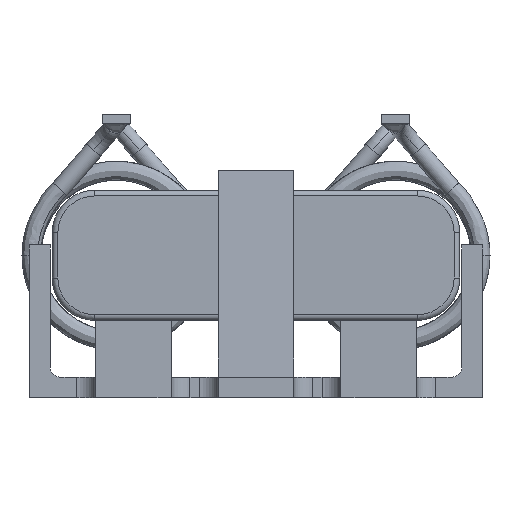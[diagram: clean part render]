
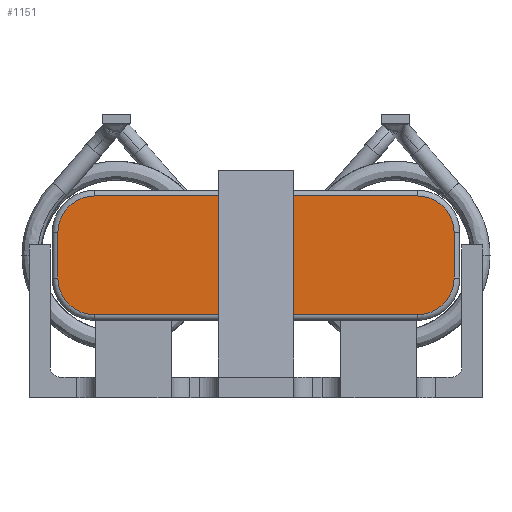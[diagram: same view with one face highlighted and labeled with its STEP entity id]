
A CAD part, front view. The second image highlights one B-rep face of the part: STEP entity #1151.
In plain terms, the highlighted planar face has unit normal (0, -1, 0).
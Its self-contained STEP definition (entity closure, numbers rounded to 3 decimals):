
#77 = CARTESIAN_POINT ( 'NONE',  ( -14.966, -10.912, 26.85 ) ) ;
#122 = AXIS2_PLACEMENT_3D ( 'NONE', #10503, #8255, #7079 ) ;
#924 = EDGE_CURVE ( 'NONE', #6044, #10158, #6233, .T. ) ;
#1151 = ADVANCED_FACE ( 'NONE', ( #6582 ), #6797, .F. ) ;
#1604 = EDGE_CURVE ( 'NONE', #11935, #6044, #14321, .T. ) ;
#1704 = DIRECTION ( 'NONE',  ( 0., 0., -1. ) ) ;
#2591 = CARTESIAN_POINT ( 'NONE',  ( -12.716, -10.912, 26.55 ) ) ;
#3060 = ORIENTED_EDGE ( 'NONE', *, *, #924, .T. ) ;
#3566 = LINE ( 'NONE', #5887, #12584 ) ;
#3610 = CARTESIAN_POINT ( 'NONE',  ( -14.666, -10.912, 24.6 ) ) ;
#4113 = DIRECTION ( 'NONE',  ( 0., 0., 1. ) ) ;
#4176 = DIRECTION ( 'NONE',  ( 0., -1., 0. ) ) ;
#4205 = CARTESIAN_POINT ( 'NONE',  ( -14.666, -10.912, 22.2 ) ) ;
#4388 = ORIENTED_EDGE ( 'NONE', *, *, #12104, .T. ) ;
#4723 = EDGE_LOOP ( 'NONE', ( #3060, #10337, #4388, #5682, #11655, #12101, #14079, #5306 ) ) ;
#4911 = LINE ( 'NONE', #5307, #13067 ) ;
#5306 = ORIENTED_EDGE ( 'NONE', *, *, #1604, .T. ) ;
#5307 = CARTESIAN_POINT ( 'NONE',  ( -14.966, -10.912, 20.25 ) ) ;
#5396 = CARTESIAN_POINT ( 'NONE',  ( -12.716, -10.912, 22.2 ) ) ;
#5682 = ORIENTED_EDGE ( 'NONE', *, *, #6066, .T. ) ;
#5876 = LINE ( 'NONE', #8460, #9409 ) ;
#5887 = CARTESIAN_POINT ( 'NONE',  ( -12.716, -10.912, 26.55 ) ) ;
#6044 = VERTEX_POINT ( 'NONE', #12118 ) ;
#6066 = EDGE_CURVE ( 'NONE', #11329, #11480, #8696, .T. ) ;
#6126 = CARTESIAN_POINT ( 'NONE',  ( 6.334, -10.912, 26.85 ) ) ;
#6233 = LINE ( 'NONE', #6126, #6956 ) ;
#6544 = DIRECTION ( 'NONE',  ( 0., 0., 1. ) ) ;
#6582 = FACE_OUTER_BOUND ( 'NONE', #4723, .T. ) ;
#6797 = PLANE ( 'NONE',  #11838 ) ;
#6956 = VECTOR ( 'NONE', #9774, 1000. ) ;
#7079 = DIRECTION ( 'NONE',  ( 0., 0., 1. ) ) ;
#7625 = DIRECTION ( 'NONE',  ( 1., 0., 0. ) ) ;
#7647 = CARTESIAN_POINT ( 'NONE',  ( 4.384, -10.912, 20.25 ) ) ;
#7755 = DIRECTION ( 'NONE',  ( 0., -1., 0. ) ) ;
#7958 = AXIS2_PLACEMENT_3D ( 'NONE', #8797, #7755, #11089 ) ;
#8111 = CARTESIAN_POINT ( 'NONE',  ( 4.384, -10.912, 26.55 ) ) ;
#8226 = AXIS2_PLACEMENT_3D ( 'NONE', #12083, #4176, #4113 ) ;
#8255 = DIRECTION ( 'NONE',  ( 0., -1., 0. ) ) ;
#8460 = CARTESIAN_POINT ( 'NONE',  ( -14.666, -10.912, 26.85 ) ) ;
#8696 = CIRCLE ( 'NONE', #7958, 1.95 ) ;
#8797 = CARTESIAN_POINT ( 'NONE',  ( -12.716, -10.912, 24.6 ) ) ;
#9002 = CARTESIAN_POINT ( 'NONE',  ( 6.334, -10.912, 24.6 ) ) ;
#9409 = VECTOR ( 'NONE', #1704, 1000. ) ;
#9558 = VERTEX_POINT ( 'NONE', #12429 ) ;
#9774 = DIRECTION ( 'NONE',  ( 0., 0., 1. ) ) ;
#10158 = VERTEX_POINT ( 'NONE', #9002 ) ;
#10337 = ORIENTED_EDGE ( 'NONE', *, *, #10553, .T. ) ;
#10503 = CARTESIAN_POINT ( 'NONE',  ( 4.384, -10.912, 22.2 ) ) ;
#10553 = EDGE_CURVE ( 'NONE', #10158, #11370, #12470, .T. ) ;
#10638 = CIRCLE ( 'NONE', #12335, 1.95 ) ;
#11089 = DIRECTION ( 'NONE',  ( 0., 0., 1. ) ) ;
#11329 = VERTEX_POINT ( 'NONE', #2591 ) ;
#11370 = VERTEX_POINT ( 'NONE', #8111 ) ;
#11480 = VERTEX_POINT ( 'NONE', #3610 ) ;
#11655 = ORIENTED_EDGE ( 'NONE', *, *, #11787, .T. ) ;
#11787 = EDGE_CURVE ( 'NONE', #11480, #11984, #5876, .T. ) ;
#11838 = AXIS2_PLACEMENT_3D ( 'NONE', #77, #12497, #14510 ) ;
#11935 = VERTEX_POINT ( 'NONE', #7647 ) ;
#11984 = VERTEX_POINT ( 'NONE', #4205 ) ;
#12083 = CARTESIAN_POINT ( 'NONE',  ( 4.384, -10.912, 24.6 ) ) ;
#12101 = ORIENTED_EDGE ( 'NONE', *, *, #13441, .T. ) ;
#12104 = EDGE_CURVE ( 'NONE', #11370, #11329, #3566, .T. ) ;
#12118 = CARTESIAN_POINT ( 'NONE',  ( 6.334, -10.912, 22.2 ) ) ;
#12335 = AXIS2_PLACEMENT_3D ( 'NONE', #5396, #13330, #6544 ) ;
#12429 = CARTESIAN_POINT ( 'NONE',  ( -12.716, -10.912, 20.25 ) ) ;
#12470 = CIRCLE ( 'NONE', #8226, 1.95 ) ;
#12497 = DIRECTION ( 'NONE',  ( 0., 1., 0. ) ) ;
#12584 = VECTOR ( 'NONE', #12719, 1000. ) ;
#12719 = DIRECTION ( 'NONE',  ( -1., 0., 0. ) ) ;
#13067 = VECTOR ( 'NONE', #7625, 1000. ) ;
#13330 = DIRECTION ( 'NONE',  ( 0., -1., 0. ) ) ;
#13441 = EDGE_CURVE ( 'NONE', #11984, #9558, #10638, .T. ) ;
#14079 = ORIENTED_EDGE ( 'NONE', *, *, #14262, .T. ) ;
#14262 = EDGE_CURVE ( 'NONE', #9558, #11935, #4911, .T. ) ;
#14321 = CIRCLE ( 'NONE', #122, 1.95 ) ;
#14510 = DIRECTION ( 'NONE',  ( 1., 0., 0. ) ) ;
